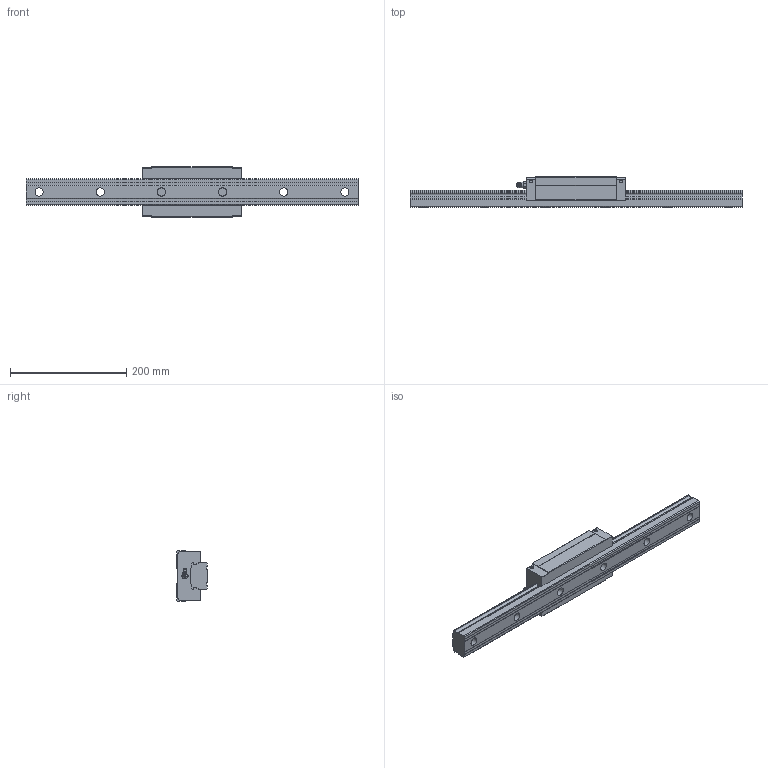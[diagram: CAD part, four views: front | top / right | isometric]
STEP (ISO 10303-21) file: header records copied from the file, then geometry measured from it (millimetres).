
FILE_DESCRIPTION(/* description */ ('STEP AP203'),/* implementation_level */ '2;1');
FILE_NAME(/* name */ 'SVS45LR1SS-570L_G22-5_0_B-PT18_199-5_0_0_0_1',/* time_stamp */ '2024-05-16T11:57:22+02:00',/* author */ ('License CC BY-ND 4.0'),/* organization */ ('CADENAS'),/* preprocessor_version */ 'ST-DEVELOPER v19.3',/* originating_system */ 'PARTsolutions',/* authorisation */ ' ');
FILE_SCHEMA (('CONFIG_CONTROL_DESIGN'));
Length unit declared in the file: millimetre
Products named in the file (4): SVS45LR1SS-570L_G22-5_0_B-PT18_199-5_0_0_0_1; SVR 45LR57022.5 R Track; SVR 45LR1SSB-PT1/81 Slide; B-PT1/8_grease_nipple_joint1_SVR
Assembly tree (3 placements, depth 2):
  SVS45LR1SS-570L_G22-5_0_B-PT18_199-5_0_0_0_1
    SVR 45LR57022.5 R Track
    SVR 45LR1SSB-PT1/81 Slide
    B-PT1/8_grease_nipple_joint1_SVR
Bounding box: 570 x 52 x 86 mm (x, y, z)
Volume: 1104731.3 mm3; surface area: 155082.7 mm2
Topology: 3 solids, 3 shells, 191 faces, 504 edges, 331 vertices
Faces by surface type: plane 99, cylinder 63, cone 24, torus 3, sphere 2
Full cylindrical faces by diameter (mm): 5.2 x4, 8.376 x6, 9.6 x1, 14 x6, 20 x6
Entity records: 5674 total; most frequent: CARTESIAN_POINT 1068, DIRECTION 944, ORIENTED_EDGE 858, EDGE_CURVE 429, AXIS2_PLACEMENT_3D 347, VERTEX_POINT 316, FACE_BOUND 275, EDGE_LOOP 267
